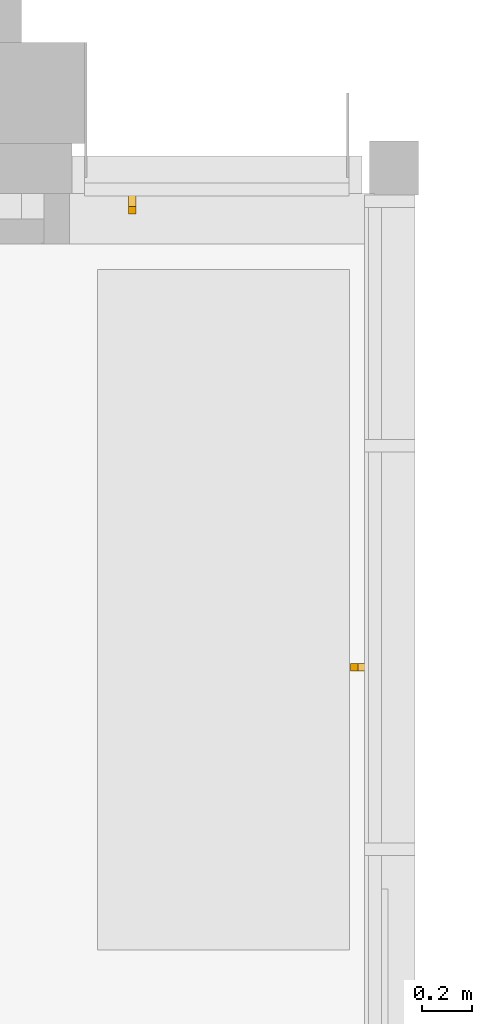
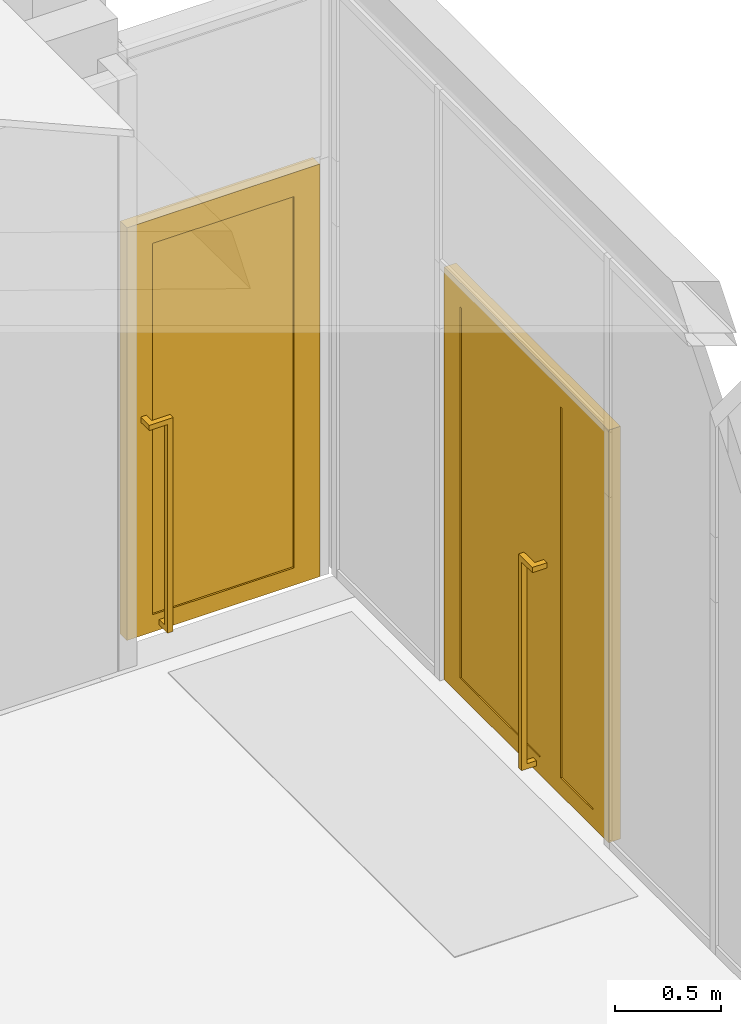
# One storey, part 64 of 77: 2 doors, 2 elements without a shape of their own.
"""IFC2X3 building model written with IfcOpenShell, lengths in millimetres."""

from ifc_helpers import new_model, entity, si_unit, converted_unit, derived_unit, direction, frame, origin, place, context, subcontext, project, spatial, faceted_brep, source, transform, mapped, material, material_list, type_object, type_shapes, element, aggregate, save


model = new_model("IFC2X3")

# Units and contexts
model_context = context("Model", 3, precision=0.01, world=origin(), true_north=direction((6.12303176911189e-17, 1.0)))
body_context = subcontext(model_context, "Body", "Model", "MODEL_VIEW")
ifc_project = project(units=[si_unit("LENGTHUNIT", "METRE", prefix="MILLI"), si_unit("AREAUNIT", "SQUARE_METRE"), si_unit("VOLUMEUNIT", "CUBIC_METRE"), converted_unit("PLANEANGLEUNIT", "DEGREE", entity("IfcRatioMeasure", 0.0174532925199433), si_unit("PLANEANGLEUNIT", "RADIAN"), dimensions=[0, 0, 0, 0, 0, 0, 0]), si_unit("MASSUNIT", "GRAM", prefix="KILO"), derived_unit("MASSDENSITYUNIT", [(si_unit("MASSUNIT", "GRAM", prefix="KILO"), 1), (si_unit("LENGTHUNIT", "METRE"), -3)]), si_unit("TIMEUNIT", "SECOND"), si_unit("FREQUENCYUNIT", "HERTZ"), si_unit("THERMODYNAMICTEMPERATUREUNIT", "DEGREE_CELSIUS"), derived_unit("THERMALTRANSMITTANCEUNIT", [(si_unit("MASSUNIT", "GRAM", prefix="KILO"), 1), (si_unit("THERMODYNAMICTEMPERATUREUNIT", "KELVIN"), -1), (si_unit("TIMEUNIT", "SECOND"), -3)]), derived_unit("VOLUMETRICFLOWRATEUNIT", [(si_unit("LENGTHUNIT", "METRE"), 3), (si_unit("TIMEUNIT", "SECOND"), -1)]), si_unit("ELECTRICCURRENTUNIT", "AMPERE"), si_unit("ELECTRICVOLTAGEUNIT", "VOLT"), si_unit("POWERUNIT", "WATT"), si_unit("FORCEUNIT", "NEWTON", prefix="KILO"), si_unit("ILLUMINANCEUNIT", "LUX"), si_unit("LUMINOUSFLUXUNIT", "LUMEN"), si_unit("LUMINOUSINTENSITYUNIT", "CANDELA"), derived_unit("USERDEFINED", [(si_unit("MASSUNIT", "GRAM", prefix="KILO"), -1), (si_unit("LENGTHUNIT", "METRE"), -2), (si_unit("TIMEUNIT", "SECOND"), 3), (si_unit("LUMINOUSFLUXUNIT", "LUMEN"), 1)]), derived_unit("LINEARVELOCITYUNIT", [(si_unit("LENGTHUNIT", "METRE"), 1), (si_unit("TIMEUNIT", "SECOND"), -1)]), si_unit("PRESSUREUNIT", "PASCAL"), derived_unit("USERDEFINED", [(si_unit("LENGTHUNIT", "METRE"), -2), (si_unit("MASSUNIT", "GRAM", prefix="KILO"), 1), (si_unit("TIMEUNIT", "SECOND"), -2)])], contexts=[model_context])

# Site, building, storey
site_placement = place(None, origin())
site = spatial("IfcSite", under=ifc_project, at=site_placement, Name="Default", CompositionType="ELEMENT")
building_placement = place(site_placement, origin())
building = spatial("IfcBuilding", under=site, at=building_placement, CompositionType="ELEMENT")
storey_placement = place(building_placement, origin())
storey = spatial("IfcBuildingStorey", under=building, at=storey_placement, Name="1. KORRUS", CompositionType="ELEMENT", Elevation=0.0)

# Curtain wall, door
curtain_wall_type = type_object("IfcCurtainWallType", Name="Curtain Wall:KF01", PredefinedType="NOTDEFINED")
curtain_wall_1_placement = place(storey_placement, origin())
curtain_wall_1 = element("IfcCurtainWall", 1, at=curtain_wall_1_placement, inside=storey, type_object=curtain_wall_type, Name="Curtain Wall:KF01", ObjectType="Curtain Wall:KF01")
ifc_material_1 = material(Name="Default New Material-al-profiilid")
ifc_material_2 = material(Name="Glass, Clear Glazing")
ifc_material_list_1 = material_list([ifc_material_1, ifc_material_2])
ifc_material_list_2 = material_list([ifc_material_1, ifc_material_2])
door_style_1 = type_object("IfcDoorStyle", Name="KF1550p-uks-g0,4", ConstructionType="USERDEFINED", OperationType="DOUBLE_DOOR_SINGLE_SWING", ParameterTakesPrecedence=False, Sizeable=False, material=ifc_material_list_2)
shared_shape_1 = source(origin(), body_context, "Body", "Brep", [
    faceted_brep([(-94.0041907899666, -39.9306548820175, 1230.0), (-164.004190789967, -39.9306548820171, 1230.0), (-164.004190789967, -39.9306548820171, 1260.0), (-64.0041907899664, -39.9306548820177, 1260.0), (-64.0041907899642, -39.9306548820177, 60.0), (-94.0041907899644, -39.9306548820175, 60.0), (-94.0041907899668, -69.9306548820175, 1230.0), (-94.0041907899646, -69.9306548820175, 30.0), (-64.0041907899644, -69.9306548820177, 30.0), (-64.0041907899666, -69.9306548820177, 1260.0), (-194.004190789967, -69.9306548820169, 1260.0), (-194.004190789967, -69.9306548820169, 1230.0), (-194.004190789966, 10.0693451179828, 1230.0), (-164.004190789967, 10.0693451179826, 1230.0), (-194.004190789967, 10.0693451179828, 1260.0), (-164.004190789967, 10.0693451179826, 1260.0), (-64.004190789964, 10.0693451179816, 30.0), (-64.004190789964, 10.0693451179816, 60.0), (-94.0041907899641, 10.0693451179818, 30.0), (-94.004190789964, 10.0693451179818, 60.0)], [[[0, 1, 2, 3, 4, 5]], [[6, 7, 8, 9, 10, 11]], [[6, 11, 12, 13, 1, 0]], [[11, 10, 14, 12]], [[10, 9, 3, 2, 15, 14]], [[9, 8, 16, 17, 4, 3]], [[16, 8, 7, 18]], [[18, 7, 6, 0, 5, 19]], [[15, 2, 1, 13]], [[14, 15, 13, 12]], [[4, 17, 19, 5]], [[19, 17, 16, 18]]]),
    faceted_brep([(-94.0041907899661, 125.0, 1230.0), (-94.0041907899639, 125.0, 60.0), (-64.0041907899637, 125.0, 60.0), (-64.0041907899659, 125.0, 1260.0), (-164.004190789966, 125.0, 1260.0), (-164.004190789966, 125.0, 1230.0), (-94.0041907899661, 155.0, 1230.0), (-194.004190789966, 155.0, 1230.0), (-194.004190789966, 155.0, 1260.0), (-64.0041907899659, 155.0, 1260.0), (-64.0041907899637, 155.0, 30.0), (-94.0041907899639, 155.0, 30.0), (-164.004190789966, 75.0, 1230.0), (-194.004190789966, 75.0, 1230.0), (-194.004190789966, 75.0, 1260.0), (-164.004190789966, 75.0, 1260.0), (-64.0041907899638, 75.0, 60.0), (-64.0041907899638, 75.0, 30.0), (-94.0041907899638, 75.0, 30.0), (-94.0041907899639, 75.0, 60.0)], [[[0, 1, 2, 3, 4, 5]], [[6, 7, 8, 9, 10, 11]], [[6, 0, 5, 12, 13, 7]], [[7, 13, 14, 8]], [[8, 14, 15, 4, 3, 9]], [[9, 3, 2, 16, 17, 10]], [[17, 18, 11, 10]], [[18, 19, 1, 0, 6, 11]], [[15, 12, 5, 4]], [[14, 13, 12, 15]], [[2, 1, 19, 16]], [[19, 18, 17, 16]]]),
    faceted_brep([(-127.0, 25.0, 2235.0), (-127.0, 25.0, 100.0), (625.0, 25.0, 100.0), (625.0, 25.0, 2235.0), (-127.0, 68.0, 2235.0), (625.0, 68.0, 2235.0), (625.0, 68.0, 100.0), (-127.0, 68.0, 100.0)], [[[0, 1, 2, 3]], [[4, 5, 6, 7]], [[1, 0, 4, 7]], [[2, 1, 7, 6]], [[3, 2, 6, 5]], [[0, 3, 5, 4]]]),
    faceted_brep([(-627.0, 25.0, 2235.0), (-627.0, 25.0, 100.0), (-323.0, 25.0, 100.0), (-323.0, 25.0, 2235.0), (-627.0, 68.0, 2235.0), (-323.0, 68.0, 2235.0), (-323.0, 68.0, 100.0), (-627.0, 68.0, 100.0)], [[[0, 1, 2, 3]], [[4, 5, 6, 7]], [[1, 0, 4, 7]], [[2, 1, 7, 6]], [[3, 2, 6, 5]], [[0, 3, 5, 4]]]),
    faceted_brep([(725.0, 10.0693451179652, 2325.0), (-225.0, 10.0693451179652, 2325.0), (-225.0, 10.0693451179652, 0.0), (725.0, 10.0693451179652, 0.0), (625.0, 10.0693451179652, 2235.0), (625.0, 10.0693451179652, 100.0), (-127.0, 10.0693451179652, 100.0), (-127.0, 10.0693451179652, 2235.0), (725.0, 75.0, 2325.0), (725.0, 75.0, 0.0), (-225.0, 75.0, 0.0), (-225.0, 75.0, 2325.0), (625.0, 75.0, 2235.0), (-127.0, 75.0, 2235.0), (-127.0, 75.0, 100.0), (625.0, 75.0, 100.0)], [[[0, 1, 2, 3], [4, 5, 6, 7]], [[8, 9, 10, 11], [12, 13, 14, 15]], [[0, 3, 9, 8]], [[3, 2, 10, 9]], [[2, 1, 11, 10]], [[1, 0, 8, 11]], [[4, 7, 13, 12]], [[7, 6, 14, 13]], [[6, 5, 15, 14]], [[5, 4, 12, 15]]]),
    faceted_brep([(-725.0, 10.0693451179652, 2325.0), (-725.0, 10.0693451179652, 0.0), (-225.0, 10.0693451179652, 0.0), (-225.0, 10.0693451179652, 2325.0), (-627.0, 10.0693451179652, 2235.0), (-323.0, 10.0693451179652, 2235.0), (-323.0, 10.0693451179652, 100.0), (-627.0, 10.0693451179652, 100.0), (-725.0, 75.0, 2325.0), (-225.0, 75.0, 2325.0), (-225.0, 75.0, 0.0), (-725.0, 75.0, 0.0), (-627.0, 75.0, 2235.0), (-627.0, 75.0, 100.0), (-323.0, 75.0, 100.0), (-323.0, 75.0, 2235.0)], [[[0, 1, 2, 3], [4, 5, 6, 7]], [[8, 9, 10, 11], [12, 13, 14, 15]], [[1, 0, 8, 11]], [[2, 1, 11, 10]], [[3, 2, 10, 9]], [[0, 3, 9, 8]], [[5, 4, 12, 15]], [[6, 5, 15, 14]], [[7, 6, 14, 13]], [[4, 7, 13, 12]]]),
    faceted_brep([(775.0, 10.0693451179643, 2325.0), (775.0, 75.0, 2325.0), (775.0, 75.0, 2375.0), (775.0, 10.0693451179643, 2375.0), (-775.0, 10.0693451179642, 2325.0), (-775.0, 10.0693451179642, 2375.0), (-775.0, 75.0, 2375.0), (-775.0, 75.0, 2325.0)], [[[0, 1, 2, 3]], [[4, 5, 6, 7]], [[0, 3, 5, 4]], [[3, 2, 6, 5]], [[2, 1, 7, 6]], [[1, 0, 4, 7]]]),
    faceted_brep([(775.0, 75.0, 0.0), (775.0, 10.0693451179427, 0.0), (725.0, 10.0693451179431, 0.0), (725.0, 75.0, 0.0), (775.0, 75.0, 2325.0), (775.0, 10.0693451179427, 2325.0), (725.0, 10.0693451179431, 2325.0), (725.0, 75.0, 2325.0)], [[[0, 1, 2, 3]], [[4, 5, 1, 0]], [[5, 6, 2, 1]], [[6, 7, 3, 2]], [[7, 4, 0, 3]], [[4, 7, 6, 5]]]),
    faceted_brep([(-775.0, 75.0, 0.0), (-725.0, 75.0, 0.0), (-725.0, 10.0693451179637, 0.0), (-775.0, 10.0693451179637, 0.0), (-775.0, 75.0, 2325.0), (-725.0, 75.0, 2325.0), (-725.0, 10.0693451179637, 2325.0), (-775.0, 10.0693451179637, 2325.0)], [[[0, 1, 2, 3]], [[4, 5, 1, 0]], [[5, 6, 2, 1]], [[6, 7, 3, 2]], [[7, 4, 0, 3]], [[4, 7, 6, 5]]]),
])
type_shapes(door_style_1, [shared_shape_1])
door_1_placement = place(curtain_wall_1_placement, frame((1460.00453708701, 10800.0, 0.0), z_axis=(0.0, 0.0, 1.0), x_axis=(0.0, 1.0, 0.0)))
door_1 = element("IfcDoor", 2, at=door_1_placement, type_object=door_style_1, material=ifc_material_list_1, Name="kf1550-uks-ebasymmeetriline:KF1550p-uks-g0,4", ObjectType="KF1550p-uks-g0,4", OverallHeight=2375.0, OverallWidth=1550.00000000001, context=body_context, shape_type="MappedRepresentation", body=[
    mapped(shared_shape_1, transform((0.0, 0.0, 0.0), scale=1.0)),
])
aggregate(curtain_wall_1, [door_1])

curtain_wall_2_placement = place(storey_placement, origin())
curtain_wall_2 = element("IfcCurtainWall", 3, at=curtain_wall_2_placement, inside=storey, type_object=curtain_wall_type, Name="Curtain Wall:KF01", ObjectType="Curtain Wall:KF01")
ifc_material_3 = material(Name="Glass")
ifc_material_list_3 = material_list([ifc_material_1, ifc_material_3])
ifc_material_list_4 = material_list([ifc_material_1, ifc_material_3])
door_style_2 = type_object("IfcDoorStyle", Name="KFU-2", ConstructionType="USERDEFINED", OperationType="SINGLE_SWING_RIGHT", ParameterTakesPrecedence=False, Sizeable=False, material=ifc_material_list_4)
shared_shape_2 = source(origin(), body_context, "Body", "Brep", [
    faceted_brep([(-350.0, 40.0, 1230.0), (-350.0, 40.0, 60.0), (-320.0, 40.0, 60.0), (-320.0, 40.0, 1260.0), (-420.0, 40.0, 1260.0), (-420.0, 40.0, 1230.0), (-350.0, 70.0, 1230.0), (-450.0, 70.0, 1230.0), (-450.0, 70.0, 1260.0), (-320.0, 70.0, 1260.0), (-320.0, 70.0, 30.0), (-350.0, 70.0, 30.0), (-420.0, -10.0, 1230.0), (-450.0, -10.0, 1230.0), (-450.0, -10.0, 1260.0), (-420.0, -10.0, 1260.0), (-320.0, -10.0, 60.0), (-320.0, -10.0, 30.0), (-350.0, -10.0, 30.0), (-350.0, -10.0, 60.0)], [[[0, 1, 2, 3, 4, 5]], [[6, 7, 8, 9, 10, 11]], [[6, 0, 5, 12, 13, 7]], [[7, 13, 14, 8]], [[8, 14, 15, 4, 3, 9]], [[9, 3, 2, 16, 17, 10]], [[17, 18, 11, 10]], [[18, 19, 1, 0, 6, 11]], [[15, 12, 5, 4]], [[14, 13, 12, 15]], [[2, 1, 19, 16]], [[19, 18, 17, 16]]]),
    faceted_brep([(-350.0, -125.0, 1230.0), (-420.0, -125.0, 1230.0), (-420.0, -125.0, 1260.0), (-320.0, -125.0, 1260.0), (-320.0, -125.0, 60.0), (-350.0, -125.0, 60.0), (-350.0, -155.0, 1230.0), (-350.0, -155.0, 30.0), (-320.0, -155.0, 30.0), (-320.0, -155.0, 1260.0), (-450.0, -155.0, 1260.0), (-450.0, -155.0, 1230.0), (-450.0, -75.0, 1230.0), (-420.0, -75.0, 1230.0), (-450.0, -75.0, 1260.0), (-420.0, -75.0, 1260.0), (-320.0, -75.0, 30.0), (-320.0, -75.0, 60.0), (-350.0, -75.0, 30.0), (-350.0, -75.0, 60.0)], [[[0, 1, 2, 3, 4, 5]], [[6, 7, 8, 9, 10, 11]], [[6, 11, 12, 13, 1, 0]], [[11, 10, 14, 12]], [[10, 9, 3, 2, 15, 14]], [[9, 8, 16, 17, 4, 3]], [[16, 8, 7, 18]], [[18, 7, 6, 0, 5, 19]], [[15, 2, 1, 13]], [[14, 15, 13, 12]], [[4, 17, 19, 5]], [[19, 17, 16, 18]]]),
    faceted_brep([(480.568297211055, -10.0, 0.0), (525.0, -10.0, 0.0), (525.0, -75.0, 0.0), (480.568297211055, -75.0, 0.0), (525.0, -10.0, 2375.0), (480.568297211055, -10.0, 2375.0), (525.0, -75.0, 2375.0), (480.568297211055, -75.0, 2375.0)], [[[0, 1, 2, 3]], [[4, 1, 0, 5]], [[6, 2, 1, 4]], [[7, 3, 2, 6]], [[5, 0, 3, 7]], [[5, 7, 6, 4]]]),
    faceted_brep([(-482.674477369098, -10.0, 0.0), (-482.674477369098, -75.0, 0.0), (-525.0, -75.0, 0.0), (-525.0, -10.0, 0.0), (-482.674477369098, -75.0, 2375.0), (-482.674477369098, -10.0, 2375.0), (-525.0, -75.0, 2375.0), (-525.0, -10.0, 2375.0)], [[[0, 1, 2, 3]], [[4, 1, 0, 5]], [[6, 2, 1, 4]], [[7, 3, 2, 6]], [[5, 0, 3, 7]], [[5, 7, 6, 4]]]),
    faceted_brep([(-482.674477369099, -75.0, 2375.0), (-482.674477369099, -75.0, 2335.0), (480.568297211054, -75.0, 2335.0), (480.568297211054, -75.0, 2375.0), (-482.674477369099, -10.0, 2375.0), (480.568297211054, -10.0, 2375.0), (480.568297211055, -10.0, 2335.0), (-482.674477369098, -10.0, 2335.0)], [[[0, 1, 2, 3]], [[4, 5, 6, 7]], [[3, 5, 4, 0]], [[2, 6, 5, 3]], [[1, 7, 6, 2]], [[0, 4, 7, 1]]]),
    faceted_brep([(-482.674477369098, -75.0, 2335.0), (-482.674477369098, -75.0, 0.0), (480.568297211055, -75.0, 0.0), (480.568297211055, -75.0, 2335.0), (-387.106180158, -75.0, 2237.0), (383.58441934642, -75.0, 2237.0), (383.58441934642, -75.0, 100.0), (-387.106180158, -75.0, 100.0), (-482.674477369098, -10.0, 2335.0), (480.568297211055, -10.0, 2335.0), (480.568297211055, -10.0, 0.0), (-482.674477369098, -10.0, 0.0), (-387.106180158, -10.0, 2237.0), (-387.106180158, -10.0, 100.0), (383.58441934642, -10.0, 100.0), (383.58441934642, -10.0, 2237.0)], [[[0, 1, 2, 3], [4, 5, 6, 7]], [[8, 9, 10, 11], [12, 13, 14, 15]], [[3, 9, 8, 0]], [[2, 10, 9, 3]], [[1, 11, 10, 2]], [[0, 8, 11, 1]], [[7, 13, 12, 4]], [[6, 14, 13, 7]], [[5, 15, 14, 6]], [[4, 12, 15, 5]]]),
    faceted_brep([(-389.43170278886, -65.0, 2237.0), (-389.43170278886, -65.0, 100.0), (383.58441934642, -65.0, 100.0), (383.58441934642, -65.0, 2237.0), (-389.43170278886, -20.0, 2237.0), (383.58441934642, -20.0, 2237.0), (383.58441934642, -20.0, 100.0), (-389.43170278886, -20.0, 100.0)], [[[0, 1, 2, 3]], [[4, 5, 6, 7]], [[3, 5, 4, 0]], [[2, 6, 5, 3]], [[1, 7, 6, 2]], [[0, 4, 7, 1]]]),
])
type_shapes(door_style_2, [shared_shape_2])
door_2_placement = place(curtain_wall_2_placement, frame((775.0, 12675.0, 0.0)))
door_2 = element("IfcDoor", 4, at=door_2_placement, type_object=door_style_2, material=ifc_material_list_3, Name="Uks-KF:KFU-2", ObjectType="KFU-2", OverallHeight=2375.0, OverallWidth=1049.99999999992, context=body_context, shape_type="MappedRepresentation", body=[
    mapped(shared_shape_2, transform((0.0, 0.0, 0.0), scale=1.0)),
])
aggregate(curtain_wall_2, [door_2])

save(model, "model.ifc")
